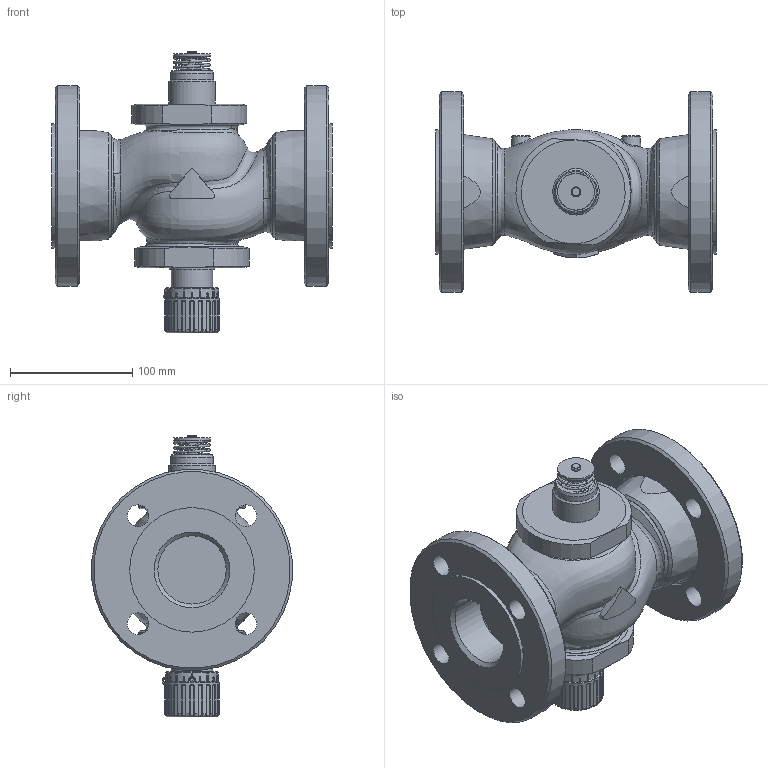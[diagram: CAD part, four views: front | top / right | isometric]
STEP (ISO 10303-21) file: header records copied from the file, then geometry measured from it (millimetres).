
FILE_DESCRIPTION(/* description */ (''),/* implementation_level */ '2;1');
FILE_NAME(/* name */ 'rv122p_dn50_F.stp',/* time_stamp */ '2012-11-05T15:19:33+01:00',/* author */ ('JENIK'),/* organization */ ('LDM'),/* preprocessor_version */ 'ST-DEVELOPER v11',/* originating_system */ 'SIEMENS PLM Software NX 7.0',/* authorisation */ '');
FILE_SCHEMA (('CONFIG_CONTROL_DESIGN'));
Length unit declared in the file: millimetre
Products named in the file (1): jeniA85B0dln
Bounding box: 230 x 164.37 x 230.8 mm (x, y, z)
Volume: 868351.7 mm3; surface area: 235317.1 mm2
Topology: 2 solids, 3 shells, 553 faces, 1364 edges, 839 vertices
Faces by surface type: cylinder 200, plane 141, bspline 96, torus 72, cone 43, sphere 1
Full cylindrical faces by diameter (mm): 2 x1, 2.5 x1, 8 x2, 18 x8, 24.5 x1, 30 x1, 33.8 x1, 35 x1, 37 x1, 38 x1, 43 x1, 56 x2, 78.576 x2, 81.534 x2, 82 x2, 95 x2, 102 x2, 165 x2
Entity records: 30213 total; most frequent: CARTESIAN_POINT 18444, ORIENTED_EDGE 2452, DIRECTION 2262, EDGE_CURVE 1226, AXIS2_PLACEMENT_3D 953, VERTEX_POINT 796, EDGE_LOOP 696, ADVANCED_FACE 553
